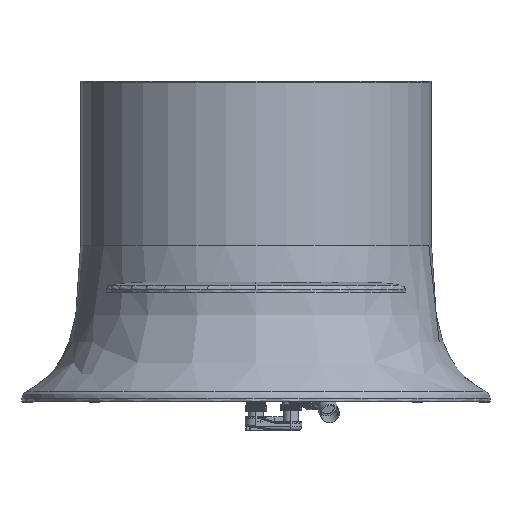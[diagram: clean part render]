
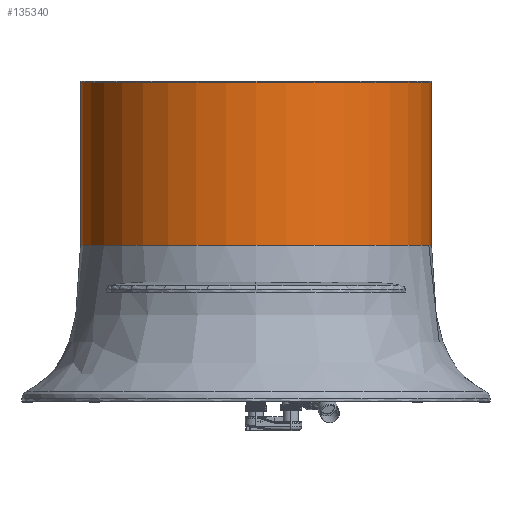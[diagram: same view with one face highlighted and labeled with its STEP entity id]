
A CAD part, left-side view. The second image highlights one B-rep face of the part: STEP entity #135340.
In plain terms, the highlighted cylindrical face has radius 450 mm (diameter 900 mm), a partial arc.
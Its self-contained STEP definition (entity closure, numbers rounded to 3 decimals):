
#9104 = ORIENTED_EDGE ( 'NONE', *, *, #196384, .T. ) ;
#14884 = EDGE_CURVE ( 'NONE', #200647, #181689, #204116, .T. ) ;
#18520 = CARTESIAN_POINT ( 'NONE',  ( 0., 400., 0. ) ) ;
#24747 = CARTESIAN_POINT ( 'NONE',  ( 0., 0., -450. ) ) ;
#29030 = DIRECTION ( 'NONE',  ( 0., 0., 1. ) ) ;
#36229 = CARTESIAN_POINT ( 'NONE',  ( 0., 400., -450. ) ) ;
#37075 = CYLINDRICAL_SURFACE ( 'NONE', #205089, 450. ) ;
#39486 = VECTOR ( 'NONE', #85991, 1000. ) ;
#42507 = CARTESIAN_POINT ( 'NONE',  ( 0., 818., -450. ) ) ;
#46978 = CARTESIAN_POINT ( 'NONE',  ( 0., 818., 0. ) ) ;
#51904 = AXIS2_PLACEMENT_3D ( 'NONE', #46978, #158369, #62974 ) ;
#62030 = FACE_OUTER_BOUND ( 'NONE', #201583, .T. ) ;
#62974 = DIRECTION ( 'NONE',  ( 0., 0., 1. ) ) ;
#67175 = DIRECTION ( 'NONE',  ( 0., 1., 0. ) ) ;
#67215 = CIRCLE ( 'NONE', #51904, 450. ) ;
#73033 = DIRECTION ( 'NONE',  ( 0., 1., 0. ) ) ;
#82710 = CARTESIAN_POINT ( 'NONE',  ( 0., 400., 450. ) ) ;
#84919 = ORIENTED_EDGE ( 'NONE', *, *, #97184, .F. ) ;
#85991 = DIRECTION ( 'NONE',  ( 0., 1., 0. ) ) ;
#97184 = EDGE_CURVE ( 'NONE', #200647, #152919, #201606, .T. ) ;
#117999 = VECTOR ( 'NONE', #73033, 1000. ) ;
#124060 = VERTEX_POINT ( 'NONE', #180011 ) ;
#124405 = DIRECTION ( 'NONE',  ( 0., 1., 0. ) ) ;
#135340 = ADVANCED_FACE ( 'NONE', ( #62030 ), #37075, .T. ) ;
#136465 = CARTESIAN_POINT ( 'NONE',  ( 0., 0., 450. ) ) ;
#139800 = AXIS2_PLACEMENT_3D ( 'NONE', #18520, #67175, #192644 ) ;
#152919 = VERTEX_POINT ( 'NONE', #42507 ) ;
#153961 = ORIENTED_EDGE ( 'NONE', *, *, #199462, .T. ) ;
#158369 = DIRECTION ( 'NONE',  ( 0., -1., 0. ) ) ;
#167928 = LINE ( 'NONE', #136465, #117999 ) ;
#171788 = ORIENTED_EDGE ( 'NONE', *, *, #14884, .T. ) ;
#180011 = CARTESIAN_POINT ( 'NONE',  ( 0., 818., 450. ) ) ;
#181689 = VERTEX_POINT ( 'NONE', #82710 ) ;
#187793 = CARTESIAN_POINT ( 'NONE',  ( 0., 0., 0. ) ) ;
#192644 = DIRECTION ( 'NONE',  ( 0., 0., 1. ) ) ;
#196384 = EDGE_CURVE ( 'NONE', #181689, #124060, #167928, .T. ) ;
#199462 = EDGE_CURVE ( 'NONE', #124060, #152919, #67215, .T. ) ;
#200647 = VERTEX_POINT ( 'NONE', #36229 ) ;
#201583 = EDGE_LOOP ( 'NONE', ( #84919, #171788, #9104, #153961 ) ) ;
#201606 = LINE ( 'NONE', #24747, #39486 ) ;
#204116 = CIRCLE ( 'NONE', #139800, 450. ) ;
#205089 = AXIS2_PLACEMENT_3D ( 'NONE', #187793, #124405, #29030 ) ;
